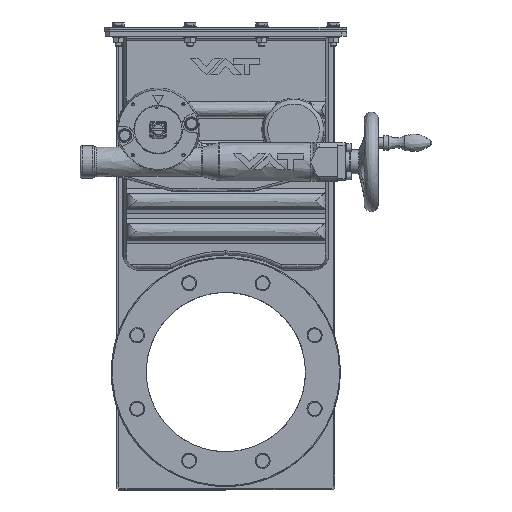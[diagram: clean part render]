
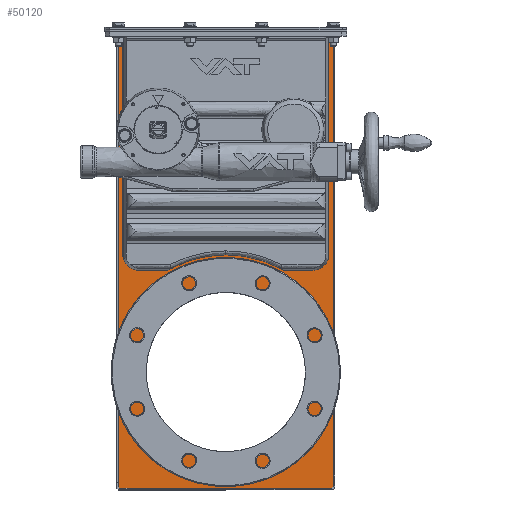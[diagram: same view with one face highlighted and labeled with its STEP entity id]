
A CAD part, top view. The second image highlights one B-rep face of the part: STEP entity #50120.
In plain terms, the highlighted free-form (B-spline) face has degree [1, 1] with [2, 2] control points.
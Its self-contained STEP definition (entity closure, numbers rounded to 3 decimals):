
#45438=CARTESIAN_POINT('V65',(-421.85,2.5,
   235.175));
#45439=VERTEX_POINT('V65',#45438);
#45440=CARTESIAN_POINT('E85',(-421.85,2.5,
   235.175));
#45441=CARTESIAN_POINT('E85',(-595.358,2.5,
   235.175));
#45442=CARTESIAN_POINT('E85',(-508.604,2.5,
   84.912));
#45443=CARTESIAN_POINT('E85',(-421.85,2.5,
   -65.35));
#45444=CARTESIAN_POINT('E85',(-335.096,2.5,
   84.912));
#45445=CARTESIAN_POINT('E85',(-248.342,2.5,
   235.175));
#45446=CARTESIAN_POINT('E85',(-421.85,2.5,
   235.175));
#45454=(BOUNDED_CURVE()B_SPLINE_CURVE(2,(#45440,#45441,#45442,
   #45443,#45444,#45445,#45446),.CIRCULAR_ARC.,.T.,.U.)
   B_SPLINE_CURVE_WITH_KNOTS((3,2,2,3),(0.0,0.333,
   0.667,1.0),.UNSPECIFIED.)CURVE()
   GEOMETRIC_REPRESENTATION_ITEM()RATIONAL_B_SPLINE_CURVE((1.0,
   0.5,1.0,0.5,1.0,0.5,1.0)
   )REPRESENTATION_ITEM('E85'));
#45455=EDGE_CURVE('E85',#45439,#45439,#45454,.T.);
#45630=CARTESIAN_POINT('V74',(-293.923,2.5,
   207.919));
#45631=VERTEX_POINT('V74',#45630);
#45647=CARTESIAN_POINT('V73',(-293.923,2.5,
   244.436));
#45648=VERTEX_POINT('V73',#45647);
#45654=CARTESIAN_POINT('E94',(-293.923,2.5,
   244.436));
#45655=CARTESIAN_POINT('E94',(-293.923,2.5,
   207.919));
#45656=B_SPLINE_CURVE_WITH_KNOTS('E94',1,(#45654,#45655),
   .POLYLINE_FORM.,.F.,.U.,(2,2),(0.0,0.167),
   .UNSPECIFIED.);
#45657=EDGE_CURVE('E94',#45648,#45631,#45656,.T.);
#45685=CARTESIAN_POINT('V75',(-274.6,2.5,
   135.0));
#45686=VERTEX_POINT('V75',#45685);
#45687=CARTESIAN_POINT('E95',(-293.923,2.5,
   207.919));
#45688=CARTESIAN_POINT('E95',(-274.6,2.5,
   174.019));
#45689=CARTESIAN_POINT('E95',(-274.6,2.5,
   135.0));
#45697=(BOUNDED_CURVE()B_SPLINE_CURVE(2,(#45687,#45688,#45689),
   .CIRCULAR_ARC.,.F.,.U.)B_SPLINE_CURVE_WITH_KNOTS((3,3),(
   188.5,206.793),.UNSPECIFIED.)CURVE()
   GEOMETRIC_REPRESENTATION_ITEM()RATIONAL_B_SPLINE_CURVE((
   0.805,0.867,1.0))REPRESENTATION_ITEM('E95'
   ));
#45698=EDGE_CURVE('E95',#45631,#45686,#45697,.T.);
#45733=CARTESIAN_POINT('V76',(-293.923,2.5,
   62.081));
#45734=VERTEX_POINT('V76',#45733);
#45762=CARTESIAN_POINT('E96',(-274.6,2.5,
   135.0));
#45763=CARTESIAN_POINT('E96',(-274.6,2.5,
   95.981));
#45764=CARTESIAN_POINT('E96',(-293.923,2.5,
   62.081));
#45772=(BOUNDED_CURVE()B_SPLINE_CURVE(2,(#45762,#45763,#45764),
   .CIRCULAR_ARC.,.F.,.U.)B_SPLINE_CURVE_WITH_KNOTS((3,3),(0.0,
   18.293),.UNSPECIFIED.)CURVE()
   GEOMETRIC_REPRESENTATION_ITEM()RATIONAL_B_SPLINE_CURVE((1.0,
   0.867,0.805))REPRESENTATION_ITEM('E96'));
#45773=EDGE_CURVE('E96',#45686,#45734,#45772,.T.);
#45784=CARTESIAN_POINT('V77',(-293.923,2.5,
   25.564));
#45785=VERTEX_POINT('V77',#45784);
#45786=CARTESIAN_POINT('E97',(-293.923,2.5,
   62.081));
#45787=CARTESIAN_POINT('E97',(-293.923,2.5,
   25.564));
#45788=B_SPLINE_CURVE_WITH_KNOTS('E97',1,(#45786,#45787),
   .POLYLINE_FORM.,.F.,.U.,(2,2),(0.833,1.0),
   .UNSPECIFIED.);
#45789=EDGE_CURVE('E97',#45734,#45785,#45788,.T.);
#45829=CARTESIAN_POINT('V78',(-273.923,2.5,
   5.564));
#45830=VERTEX_POINT('V78',#45829);
#45844=CARTESIAN_POINT('V79',(0.0,2.5,
   5.564));
#45845=VERTEX_POINT('V79',#45844);
#45846=CARTESIAN_POINT('E99',(0.0,2.5,
   5.564));
#45847=CARTESIAN_POINT('E99',(-273.923,2.5,
   5.564));
#45848=B_SPLINE_CURVE_WITH_KNOTS('E99',1,(#45846,#45847),
   .POLYLINE_FORM.,.F.,.U.,(2,2),(0.0,0.482),
   .UNSPECIFIED.);
#45849=EDGE_CURVE('E99',#45845,#45830,#45848,.T.);
#49760=CARTESIAN_POINT('E98',(-293.923,2.5,
   25.564));
#49761=CARTESIAN_POINT('E98',(-293.923,2.5,
   5.564));
#49762=CARTESIAN_POINT('E98',(-273.923,2.5,
   5.564));
#49770=(BOUNDED_CURVE()B_SPLINE_CURVE(2,(#49760,#49761,#49762),
   .CIRCULAR_ARC.,.F.,.U.)CURVE()GEOMETRIC_REPRESENTATION_ITEM()
   QUASI_UNIFORM_CURVE()RATIONAL_B_SPLINE_CURVE((1.0,
   0.707,1.0))REPRESENTATION_ITEM('E98'));
#49771=EDGE_CURVE('E98',#45785,#45830,#49770,.T.);
#49911=CARTESIAN_POINT('V72',(-273.923,2.5,
   264.436));
#49912=VERTEX_POINT('V72',#49911);
#49926=CARTESIAN_POINT('E93',(-273.923,2.5,
   264.436));
#49927=CARTESIAN_POINT('E93',(-293.923,2.5,
   264.436));
#49928=CARTESIAN_POINT('E93',(-293.923,2.5,
   244.436));
#49936=(BOUNDED_CURVE()B_SPLINE_CURVE(2,(#49926,#49927,#49928),
   .CIRCULAR_ARC.,.F.,.U.)CURVE()GEOMETRIC_REPRESENTATION_ITEM()
   QUASI_UNIFORM_CURVE()RATIONAL_B_SPLINE_CURVE((1.0,
   0.707,1.0))REPRESENTATION_ITEM('E93'));
#49937=EDGE_CURVE('E93',#49912,#45648,#49936,.T.);
#49960=CARTESIAN_POINT('V71',(0.0,2.5,
   264.436));
#49961=VERTEX_POINT('V71',#49960);
#49975=CARTESIAN_POINT('E92',(0.0,2.5,
   264.436));
#49976=CARTESIAN_POINT('E92',(-273.923,2.5,
   264.436));
#49977=B_SPLINE_CURVE_WITH_KNOTS('E92',1,(#49975,#49976),
   .POLYLINE_FORM.,.F.,.U.,(2,2),(0.0,0.482),
   .UNSPECIFIED.);
#49978=EDGE_CURVE('E92',#49961,#49912,#49977,.T.);
#49990=CARTESIAN_POINT('V66',(-565.85,2.5,
   0.0));
#49991=VERTEX_POINT('V66',#49990);
#50004=CARTESIAN_POINT('V80',(0.0,2.5,0.)
   );
#50005=VERTEX_POINT('V80',#50004);
#50011=CARTESIAN_POINT('E101',(0.0,2.5,0.0));
#50012=CARTESIAN_POINT('E101',(-565.85,
   2.5,0.0));
#50013=B_SPLINE_CURVE_WITH_KNOTS('E101',1,(#50011,#50012),
   .POLYLINE_FORM.,.F.,.U.,(2,2),(0.0,0.996),
   .UNSPECIFIED.);
#50014=EDGE_CURVE('E101',#50005,#49991,#50013,.T.);
#50026=CARTESIAN_POINT('V68',(-567.85,2.5,
   268.));
#50027=VERTEX_POINT('V68',#50026);
#50040=CARTESIAN_POINT('V67',(-567.85,2.5,
   2.));
#50041=VERTEX_POINT('V67',#50040);
#50047=CARTESIAN_POINT('E88',(-567.85,2.5,
   268.));
#50048=CARTESIAN_POINT('E88',(-567.85,2.5,
   2.));
#50049=B_SPLINE_CURVE_WITH_KNOTS('E88',1,(#50047,#50048),
   .POLYLINE_FORM.,.F.,.U.,(2,2),(0.007,
   0.993),.UNSPECIFIED.);
#50050=EDGE_CURVE('E88',#50027,#50041,#50049,.T.);
#50066=CARTESIAN_POINT('E87',(-565.85,2.5,
   0.));
#50067=CARTESIAN_POINT('E87',(-567.85,2.5,
   2.));
#50068=QUASI_UNIFORM_CURVE('E87',1,(#50066,#50067),.POLYLINE_FORM.,
   .F.,.U.);
#50069=EDGE_CURVE('E87',#49991,#50041,#50068,.T.);
#50075=CARTESIAN_POINT('F27',(0.3,2.5,
   297.075));
#50076=CARTESIAN_POINT('F27',(0.3,2.5,
   -27.075));
#50077=CARTESIAN_POINT('F27',(-583.925,2.5,
   297.075));
#50078=CARTESIAN_POINT('F27',(-583.925,2.5,
   -27.075));
#50079=B_SPLINE_SURFACE_WITH_KNOTS('F27',1,1,((#50075,#50077),(
   #50076,#50078)),.PLANE_SURF.,.F.,.F.,.U.,(2,2),(2,2),(0.0,1.0),
   (0.0,1.802),.UNSPECIFIED.);
#50080=ORIENTED_EDGE('E87',*,*,#50069,.F.);
#50081=ORIENTED_EDGE('F232',*,*,#50014,.F.);
#50082=CARTESIAN_POINT('E100',(0.0,2.5,0.)
   );
#50083=CARTESIAN_POINT('E100',(0.0,2.5,
   5.564));
#50084=QUASI_UNIFORM_CURVE('E100',1,(#50082,#50083),.POLYLINE_FORM.,
   .F.,.U.);
#50085=EDGE_CURVE('E100',#50005,#45845,#50084,.T.);
#50086=ORIENTED_EDGE('E100',*,*,#50085,.T.);
#50087=ORIENTED_EDGE('E99',*,*,#45849,.T.);
#50088=ORIENTED_EDGE('E98',*,*,#49771,.F.);
#50089=ORIENTED_EDGE('E97',*,*,#45789,.F.);
#50090=ORIENTED_EDGE('F224',*,*,#45773,.F.);
#50091=ORIENTED_EDGE('E95',*,*,#45698,.F.);
#50092=ORIENTED_EDGE('F223',*,*,#45657,.F.);
#50093=ORIENTED_EDGE('E93',*,*,#49937,.F.);
#50094=ORIENTED_EDGE('F216',*,*,#49978,.F.);
#50095=CARTESIAN_POINT('V70',(0.0,2.5,270.0));
#50096=VERTEX_POINT('V70',#50095);
#50097=CARTESIAN_POINT('E91',(0.0,2.5,
   264.436));
#50098=CARTESIAN_POINT('E91',(0.0,2.5,270.0));
#50099=QUASI_UNIFORM_CURVE('E91',1,(#50097,#50098),.POLYLINE_FORM.,
   .F.,.U.);
#50100=EDGE_CURVE('E91',#49961,#50096,#50099,.T.);
#50101=ORIENTED_EDGE('E91',*,*,#50100,.T.);
#50102=CARTESIAN_POINT('V69',(-565.85,2.5,
   270.0));
#50103=VERTEX_POINT('V69',#50102);
#50104=CARTESIAN_POINT('E90',(-565.85,2.5,
   270.0));
#50105=CARTESIAN_POINT('E90',(0.0,2.5,270.0));
#50106=B_SPLINE_CURVE_WITH_KNOTS('E90',1,(#50104,#50105),
   .POLYLINE_FORM.,.F.,.U.,(2,2),(0.004,1.0),
   .UNSPECIFIED.);
#50107=EDGE_CURVE('E90',#50103,#50096,#50106,.T.);
#50108=ORIENTED_EDGE('E90',*,*,#50107,.F.);
#50109=CARTESIAN_POINT('E89',(-567.85,2.5,
   268.));
#50110=CARTESIAN_POINT('E89',(-565.85,2.5,
   270.));
#50111=QUASI_UNIFORM_CURVE('E89',1,(#50109,#50110),.POLYLINE_FORM.,
   .F.,.U.);
#50112=EDGE_CURVE('E89',#50027,#50103,#50111,.T.);
#50113=ORIENTED_EDGE('E89',*,*,#50112,.F.);
#50114=ORIENTED_EDGE('F233',*,*,#50050,.T.);
#50115=EDGE_LOOP('F27',(#50080,#50081,#50086,#50087,#50088,#50089,
   #50090,#50091,#50092,#50093,#50094,#50101,#50108,#50113,#50114)
   );
#50116=FACE_OUTER_BOUND('F27',#50115,.F.);
#50117=ORIENTED_EDGE('E85',*,*,#45455,.F.);
#50118=EDGE_LOOP('F27',(#50117));
#50119=FACE_BOUND('F27',#50118,.F.);
#50120=ADVANCED_FACE('F27',(#50116,#50119),#50079,.T.);
